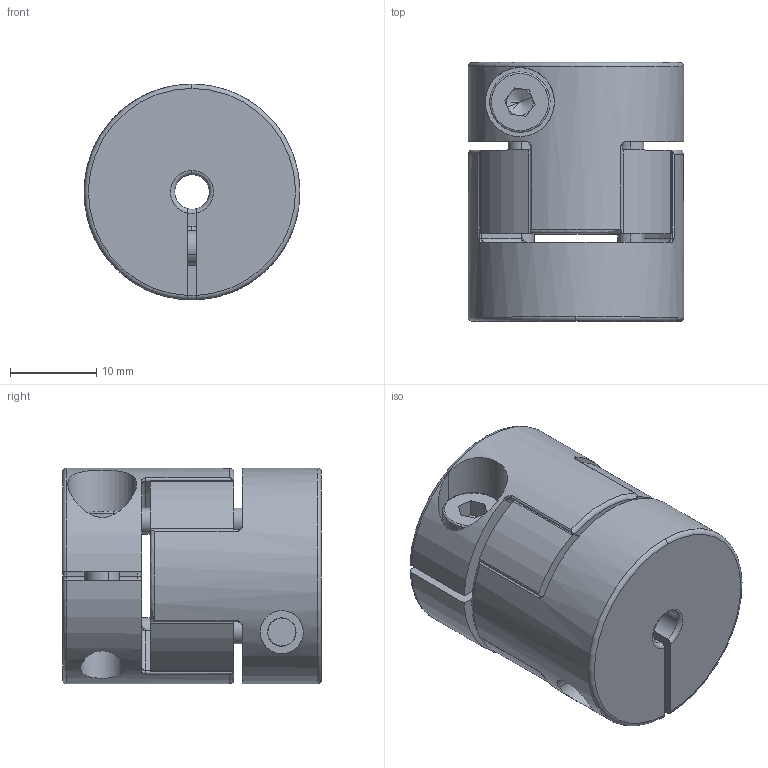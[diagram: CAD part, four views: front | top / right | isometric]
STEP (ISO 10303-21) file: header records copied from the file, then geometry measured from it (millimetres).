
FILE_DESCRIPTION (( 'STEP AP203' ), '1' );
FILE_NAME ('DXA25X30-4-4.STEP', '2023-10-18T03:30:42', ( '' ), ( '' ), 'SwSTEP 2.0', 'SolidWorks 2020', '' );
FILE_SCHEMA (( 'CONFIG_CONTROL_DESIGN' ));
Length unit declared in the file: millimetre
Products named in the file (4): 梅花25X30夹紧型端部件; DXA25X30-4-4; socket head cap screw_iso_ISO 4762 M4 x 10 - 10C; 25繩豪菜
Assembly tree (5 placements, depth 2):
  DXA25X30-4-4
    25繩豪菜
    梅花25X30夹紧型端部件  x2
    socket head cap screw_iso_ISO 4762 M4 x 10 - 10C  x2
Bounding box: 25 x 30 x 25 mm (x, y, z)
Volume: 12476.6 mm3; surface area: 7849.9 mm2
Topology: 5 solids, 5 shells, 223 faces, 545 edges, 340 vertices
Faces by surface type: cylinder 99, torus 60, plane 52, cone 12
Entity records: 4706 total; most frequent: CARTESIAN_POINT 938, DIRECTION 770, ORIENTED_EDGE 660, AXIS2_PLACEMENT_3D 331, EDGE_CURVE 330, VERTEX_POINT 209, CIRCLE 188, EDGE_LOOP 149
